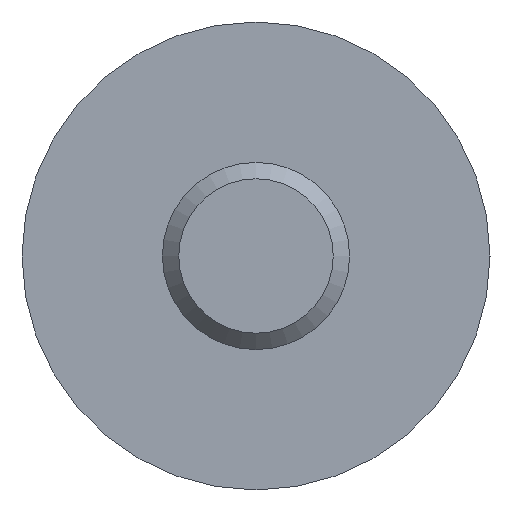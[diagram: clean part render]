
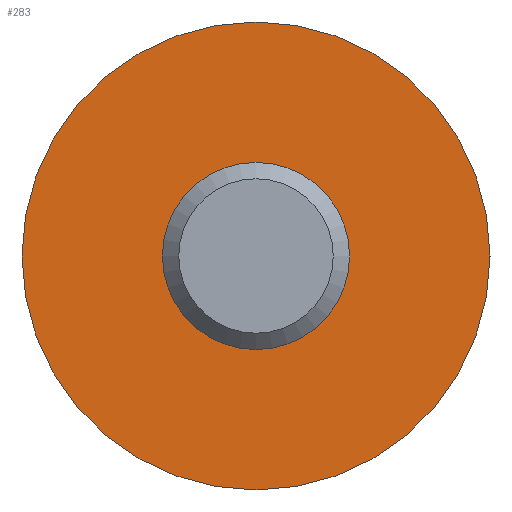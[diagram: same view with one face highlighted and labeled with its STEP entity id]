
A CAD part, front view. The second image highlights one B-rep face of the part: STEP entity #283.
In plain terms, the highlighted planar face has unit normal (0, -1, 0).
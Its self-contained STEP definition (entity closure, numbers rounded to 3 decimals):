
#242=CARTESIAN_POINT('',(12.235,19.144,2.0));
#243=VERTEX_POINT('',#242);
#244=CARTESIAN_POINT('',(12.235,19.144,0.0));
#245=DIRECTION('',(0.0,1.,0.0));
#246=DIRECTION('',(-0.581,0.0,0.814));
#247=AXIS2_PLACEMENT_3D('',#244,#245,#246);
#248=CIRCLE('',#247,2.);
#249=EDGE_CURVE('',#243,#243,#248,.T.);
#254=CARTESIAN_POINT('',(12.235,19.144,-5.5));
#255=DIRECTION('',(0.0,1.0,0.0));
#256=DIRECTION('',(0.0,0.0,1.0));
#257=AXIS2_PLACEMENT_3D('',#254,#255,#256);
#258=PLANE('',#257);
#259=CARTESIAN_POINT('',(12.235,19.144,5.0));
#260=VERTEX_POINT('',#259);
#261=CARTESIAN_POINT('',(12.235,19.144,0.));
#262=DIRECTION('',(0.0,1.,0.0));
#263=DIRECTION('',(-0.581,0.0,0.814));
#264=AXIS2_PLACEMENT_3D('',#261,#262,#263);
#265=CIRCLE('',#264,5.);
#266=EDGE_CURVE('',#260,#260,#265,.T.);
#267=ORIENTED_EDGE('',*,*,#266,.F.);
#268=CARTESIAN_POINT('',(12.235,19.144,5.0));
#269=DIRECTION('',(0.0,0.0,-1.0));
#270=VECTOR('',#269,3.0);
#271=LINE('',#268,#270);
#272=EDGE_CURVE('',#260,#243,#271,.T.);
#273=ORIENTED_EDGE('',*,*,#272,.T.);
#274=ORIENTED_EDGE('',*,*,#249,.T.);
#275=CARTESIAN_POINT('',(12.235,19.144,5.0));
#276=DIRECTION('',(0.0,0.0,-1.0));
#277=VECTOR('',#276,3.0);
#278=LINE('',#275,#277);
#279=EDGE_CURVE('',#260,#243,#278,.T.);
#280=ORIENTED_EDGE('',*,*,#279,.F.);
#281=EDGE_LOOP('',(#267,#273,#274,#280));
#282=FACE_OUTER_BOUND('',#281,.T.);
#283=ADVANCED_FACE('',(#282),#258,.F.);
